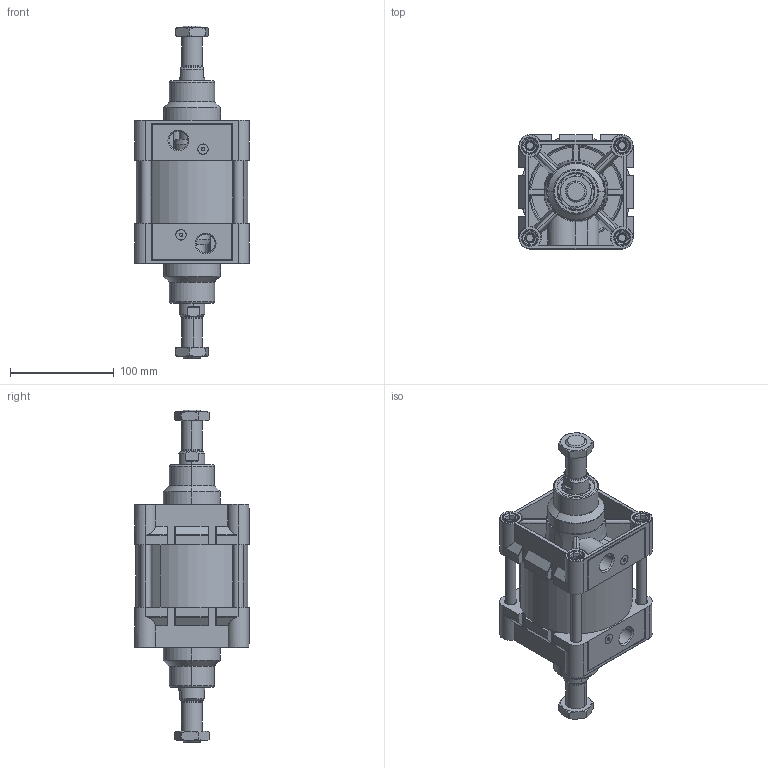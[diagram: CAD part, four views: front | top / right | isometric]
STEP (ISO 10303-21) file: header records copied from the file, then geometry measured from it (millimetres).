
FILE_DESCRIPTION (( 'STEP AP203' ), '1' );
FILE_NAME ('TDNC100X0CIFTMILLI-CYLINDER.STEP', '2014-07-01T08:14:36', ( 'user' ), ( '' ), 'SwSTEP 2.0', 'SolidWorks 2013', '' );
FILE_SCHEMA (( 'CONFIG_CONTROL_DESIGN' ));
Length unit declared in the file: millimetre
Products named in the file (19): ORTA PÝSTON 100 ÇÝFT MÝLLÝ; YASTIKLAMA VÝDASI O-RÝNG 100; ORTA PÝSTON O-RÝNG 100 ; PUL 100; PÝSTON KEÇESÝ 100; CIVATA 100; MIKNATIS 100; TDNC 100x0 SAPLAMA; YATAKLAMA BANDI 100; TDNC 100x0 BORU; Piston Mili 100x0; 烰 KAPAK  100; SAPLAMALI M尳 100x0; ﾖN MﾝL KEﾇESﾝ 100; YASTIKLAMA KEÇESÝ 100; TDNC100X0CIFTMILLI-CYLINDER; SOMUN 100; KAPAK O-RÝNGÝ 100; YASTIKLAMA VÝDASI 100
Assembly tree (39 placements, depth 2):
  TDNC100X0CIFTMILLI-CYLINDER
    烰 KAPAK  100  x2
    YASTIKLAMA KEÇESÝ 100  x2
    KAPAK O-RÝNGÝ 100  x2
    ORTA PÝSTON 100 ÇÝFT MÝLLÝ
    ORTA PÝSTON O-RÝNG 100   x2
    PÝSTON KEÇESÝ 100  x2
    MIKNATIS 100  x2
    YATAKLAMA BANDI 100
    Piston Mili 100x0
    ﾖN MﾝL KEﾇESﾝ 100  x2
    SOMUN 100  x2
    YASTIKLAMA VÝDASI 100  x2
    YASTIKLAMA VÝDASI O-RÝNG 100  x2
    PUL 100  x2
    CIVATA 100  x8
    TDNC 100x0 SAPLAMA  x4
    TDNC 100x0 BORU
    SAPLAMALI M尳 100x0
Bounding box: 110 x 110.3 x 320 mm (x, y, z)
Volume: 1078371.7 mm3; surface area: 403653.1 mm2
Topology: 41 solids, 41 shells, 1963 faces, 4646 edges, 2838 vertices
Faces by surface type: plane 661, cylinder 576, cone 462, torus 182, bspline 48, sphere 34
Entity records: 33520 total; most frequent: CARTESIAN_POINT 8035, DIRECTION 5028, ORIENTED_EDGE 4674, EDGE_CURVE 2337, AXIS2_PLACEMENT_3D 2075, VERTEX_POINT 1452, EDGE_LOOP 1097, CIRCLE 1068
